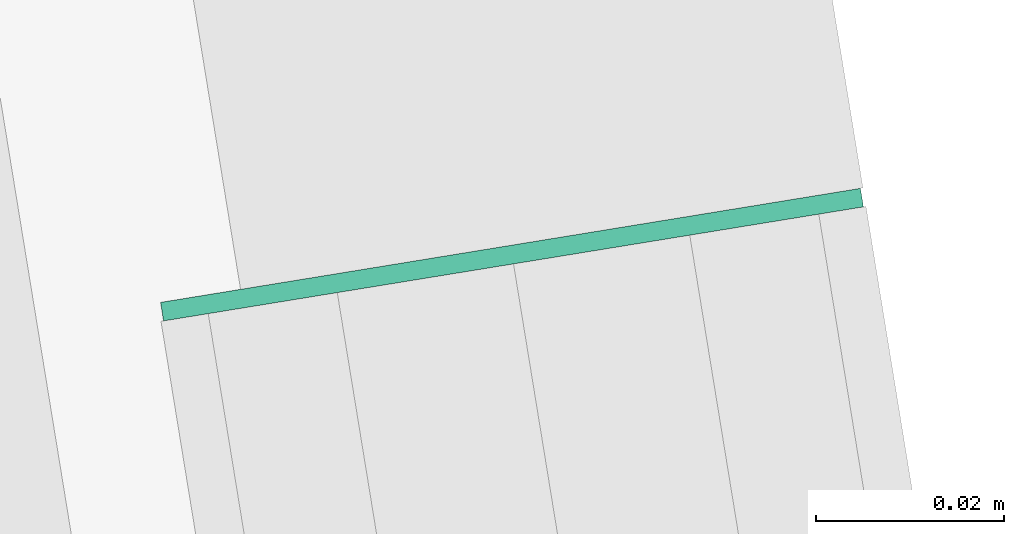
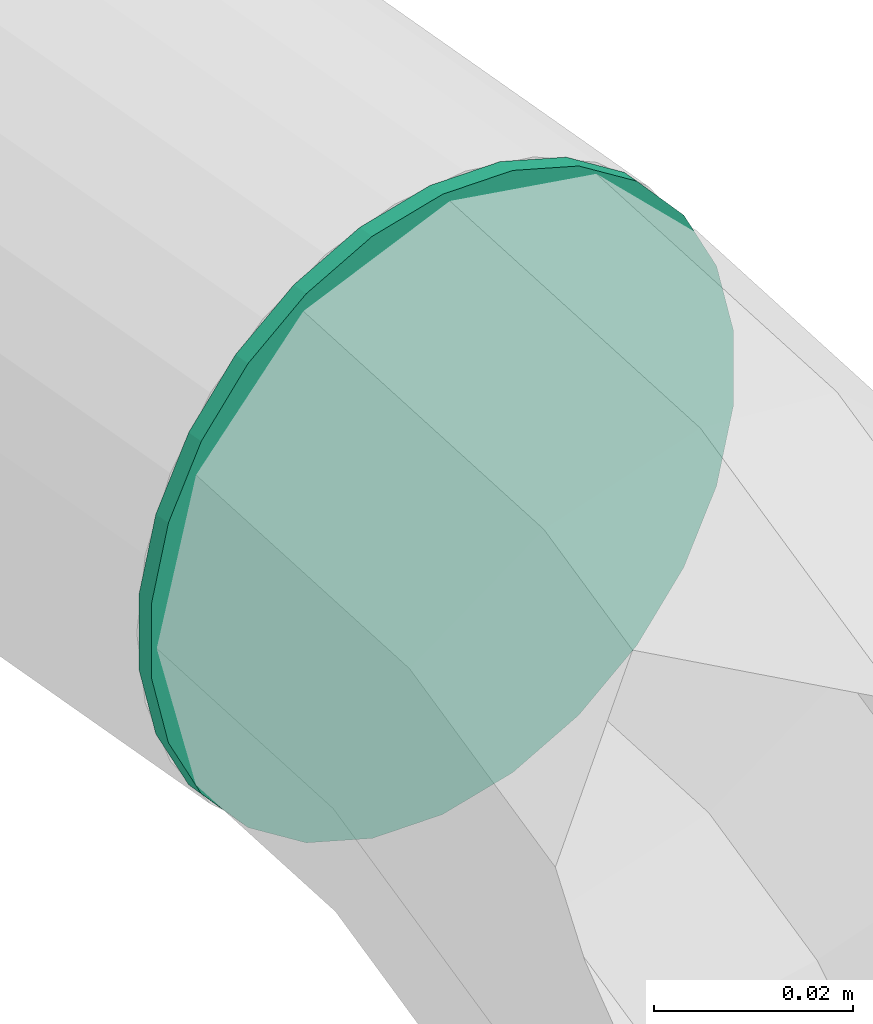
# One storey, part 19 of 46: 1 flow fitting.
"""IFC2X3 building model written with IfcOpenShell, lengths in millimetres."""

import ifcopenshell
import ifcopenshell.guid

model = None  # the IFC model being written
_history = None  # IfcOwnerHistory: only IFC2X3 demands one
_inside = {}  # id of a spatial element -> (the spatial element, [elements in it])
_under = {}  # id of a project, library or spatial element -> (it, [spatial elements below it])
_declared = {}  # id of a project -> (the project, [libraries it declares])
_typed = {}  # id of a type object -> (the type object, [elements of that type])
_made_of = {}  # id of a material, layer set ... -> (it, [elements and type objects made of it])


def new_model(schema):
    """Start an empty IFC model of exactly this schema.

    Asked for "IFC4X3", IfcOpenShell would pick the latest addendum, in which some entities
    have other attributes; the version numbers below select the first issue.
    IFC2X3 requires an IfcOwnerHistory on every rooted entity: one is made here for all.
    """
    global model, _history
    if schema == "IFC4X3":
        model = ifcopenshell.file(schema_version=(4, 3, 0, 0))
    else:
        model = ifcopenshell.file(schema=schema)
    _inside.clear()
    _under.clear()
    _declared.clear()
    _typed.clear()
    _made_of.clear()
    _history = None
    if model.schema == "IFC2X3":
        org = make("IfcOrganization", Name="unknown")
        user = make(
            "IfcPersonAndOrganization",
            ThePerson=make("IfcPerson", FamilyName="unknown"),
            TheOrganization=org,
        )
        app = make(
            "IfcApplication",
            ApplicationDeveloper=org,
            Version="unknown",
            ApplicationFullName="unknown",
            ApplicationIdentifier="unknown",
        )
        _history = make(
            "IfcOwnerHistory",
            OwningUser=user,
            OwningApplication=app,
            ChangeAction="ADDED",
            CreationDate=0,
        )
    return model


def make(cls, **values):
    """One entity of the class cls with the attributes given. An attribute that is None is left unset."""
    return model.create_entity(
        cls, **{name: value for name, value in values.items() if value is not None}
    )


def entity(cls, *values):
    """Any entity or typed value of the class cls, its attributes in the order of the schema. None: left unset."""
    e = model.create_entity(cls)
    for i, value in enumerate(values):
        if value is not None:
            e[i] = value
    return e


def rooted(cls, **values):
    """An entity with a GlobalId (a new one), such as an element, a storey or a relation."""
    return make(cls, GlobalId=ifcopenshell.guid.new(), OwnerHistory=_history, **values)


def si_unit(unit_type, name, prefix=None):
    """IfcSIUnit, for example si_unit("LENGTHUNIT", "METRE", prefix="MILLI")."""
    return make("IfcSIUnit", UnitType=unit_type, Prefix=prefix, Name=name)


def converted_unit(unit_type, name, factor, base, dimensions=None, offset=None):
    """IfcConversionBasedUnit, such as the inch: factor (a typed value) times the base unit."""
    return make(
        "IfcConversionBasedUnit"
        if offset is None
        else "IfcConversionBasedUnitWithOffset",
        ConversionOffset=offset,
        Dimensions=None
        if dimensions is None
        else entity("IfcDimensionalExponents", *dimensions),
        UnitType=unit_type,
        Name=name,
        ConversionFactor=make(
            "IfcMeasureWithUnit", ValueComponent=factor, UnitComponent=base
        ),
    )


def derived_unit(unit_type, elements):
    """IfcDerivedUnit: a product of units, each with its exponent."""
    return make(
        "IfcDerivedUnit",
        Elements=[
            make("IfcDerivedUnitElement", Unit=unit, Exponent=power)
            for unit, power in elements
        ],
        UnitType=unit_type,
    )


def assignment(units):
    """IfcUnitAssignment: the units of a project."""
    return None if units is None else make("IfcUnitAssignment", Units=units)


def point(xyz):
    """IfcCartesianPoint."""
    return None if xyz is None else make("IfcCartesianPoint", Coordinates=xyz)


def direction(xyz):
    """IfcDirection."""
    return None if xyz is None else make("IfcDirection", DirectionRatios=xyz)


def frame(location, z_axis=None, x_axis=None):
    """IfcAxis2Placement3D, a coordinate frame: its origin and axes. An axis left out is left unset."""
    return make(
        "IfcAxis2Placement3D",
        Location=point(location),
        Axis=direction(z_axis),
        RefDirection=direction(x_axis),
    )


def frame_2d(location, x_axis=None):
    """IfcAxis2Placement2D, a coordinate frame in the plane: its origin and x axis."""
    return make(
        "IfcAxis2Placement2D", Location=point(location), RefDirection=direction(x_axis)
    )


def origin():
    """The frame at (0, 0, 0) with its axes left unset."""
    return frame((0.0, 0.0, 0.0))


def origin_with_axes():
    """The frame at (0, 0, 0) with the z axis (0, 0, 1) and the x axis (1, 0, 0) written out."""
    return frame((0.0, 0.0, 0.0), z_axis=(0.0, 0.0, 1.0), x_axis=(1.0, 0.0, 0.0))


def place(relative_to, where):
    """IfcLocalPlacement: puts the frame where relative to a parent placement (None: the world)."""
    return make(
        "IfcLocalPlacement", PlacementRelTo=relative_to, RelativePlacement=where
    )


def context(
    kind, dimensions, precision=None, world=None, true_north=None, identifier=None
):
    """IfcGeometricRepresentationContext, for example the 3D "Model" context."""
    return make(
        "IfcGeometricRepresentationContext",
        ContextIdentifier=identifier,
        ContextType=kind,
        CoordinateSpaceDimension=dimensions,
        Precision=precision,
        WorldCoordinateSystem=world,
        TrueNorth=true_north,
    )


def subcontext(parent, identifier, kind, view, scale=None):
    """IfcGeometricRepresentationSubContext, for example "Body" below "Model"."""
    return make(
        "IfcGeometricRepresentationSubContext",
        ContextIdentifier=identifier,
        ContextType=kind,
        ParentContext=parent,
        TargetScale=scale,
        TargetView=view,
    )


def project(units=None, contexts=None):
    """IfcProject with its units and contexts."""
    return rooted(
        "IfcProject",
        Name="project",
        RepresentationContexts=contexts,
        UnitsInContext=assignment(units),
    )


def spatial(cls, under=None, at=None, **own):
    """A site, building, storey or space (cls), placed at a placement, below another one or the project."""
    s = rooted(cls, ObjectPlacement=at, **own)
    if under is not None:
        _under.setdefault(under.id(), (under, []))[1].append(s)
    return s


def profile(cls, at=None, kind="AREA", **sizes):
    """A parametric profile (cls). Its sizes go by their IFC names, for example OverallWidth=200.0."""
    return make(cls, ProfileType=kind, Position=at, **sizes)


def circle(**sizes):
    """IfcCircleProfileDef."""
    return profile("IfcCircleProfileDef", **sizes)


def extrude(swept, where, along, depth):
    """IfcExtrudedAreaSolid: the profile swept, set in the frame where, extruded along a direction by depth."""
    return make(
        "IfcExtrudedAreaSolid",
        SweptArea=swept,
        Position=where,
        ExtrudedDirection=direction(along),
        Depth=depth,
    )


def shape(context_of_items, identifier, shape_type, items):
    """IfcShapeRepresentation: the items that make up one representation, for example the "Body"."""
    return make(
        "IfcShapeRepresentation",
        ContextOfItems=context_of_items,
        RepresentationIdentifier=identifier,
        RepresentationType=shape_type,
        Items=items,
    )


def source(mapping_origin, context_of_items, identifier, shape_type, items):
    """IfcRepresentationMap: a shape defined once, which mapped items show again and again."""
    return make(
        "IfcRepresentationMap",
        MappingOrigin=mapping_origin,
        MappedRepresentation=shape(context_of_items, identifier, shape_type, items),
    )


def transform(
    local_origin,
    x_axis=None,
    y_axis=None,
    z_axis=None,
    scale=None,
    scale2=None,
    scale3=None,
    uniform=True,
):
    """IfcCartesianTransformationOperator3D, or its non-uniform kind. x_axis, y_axis, z_axis: its Axis1, 2, 3."""
    if uniform:
        return make(
            "IfcCartesianTransformationOperator3D",
            Axis1=direction(x_axis),
            Axis2=direction(y_axis),
            LocalOrigin=point(local_origin),
            Scale=scale,
            Axis3=direction(z_axis),
        )
    return make(
        "IfcCartesianTransformationOperator3DnonUniform",
        Axis1=direction(x_axis),
        Axis2=direction(y_axis),
        LocalOrigin=point(local_origin),
        Scale=scale,
        Axis3=direction(z_axis),
        Scale2=scale2,
        Scale3=scale3,
    )


def mapped(mapping_source, mapping_target):
    """IfcMappedItem: shows the shape of a source again, moved by a transform."""
    return make(
        "IfcMappedItem", MappingSource=mapping_source, MappingTarget=mapping_target
    )


def material(Name=None, Category=None):
    """IfcMaterial."""
    return make("IfcMaterial", Name=Name, Category=Category)


def made_of(thing, what):
    """Note that an element or type object is made of a material, layer set ...; save() writes the relation."""
    if what is not None:
        _made_of.setdefault(what.id(), (what, []))[1].append(thing)
    return thing


def type_object(cls, material=None, **own):
    """A type object (cls), such as IfcWallType, which elements share."""
    return made_of(rooted(cls, **own), material)


def element(
    cls,
    number,
    at=None,
    inside=None,
    cuts=None,
    type_object=None,
    material=None,
    context=None,
    identifier="Body",
    shape_type=None,
    held_by="IfcProductDefinitionShape",
    body=None,
    shapes=None,
    **own,
):
    """One element of the class cls, such as IfcWall. Its Tag is "e" and its number.

    at: its placement. inside: the storey or other place that contains it. cuts: it is an
    opening in that element (IfcRelVoidsElement). A single representation is given by context,
    identifier, shape_type and body (its items); several are given by shapes. held_by: the class
    of the entity that holds the representations. save() writes the other relations.
    """
    e = rooted(cls, Tag="e%d" % number, ObjectPlacement=at, **own)
    if body is not None:
        shapes = [shape(context, identifier, shape_type, body)]
    if shapes is not None:
        e.Representation = make(held_by, Representations=shapes)
    if inside is not None:
        _inside.setdefault(inside.id(), (inside, []))[1].append(e)
    if cuts is not None:
        rooted(
            "IfcRelVoidsElement", RelatingBuildingElement=cuts, RelatedOpeningElement=e
        )
    if type_object is not None:
        _typed.setdefault(type_object.id(), (type_object, []))[1].append(e)
    return made_of(e, material)


def aggregate(whole, parts):
    """IfcRelAggregates: a whole, such as a stair, and the parts it consists of."""
    return rooted("IfcRelAggregates", RelatingObject=whole, RelatedObjects=parts)


def save(model, path):
    """Write the relations noted so far, then the file.

    IfcRelAggregates (storeys below a building ...), IfcRelContainedInSpatialStructure (elements
    in a storey), IfcRelDefinesByType, IfcRelAssociatesMaterial and IfcRelDeclares: one each for
    every whole, place, type object, material and project.
    """
    for whole, parts in _under.values():
        aggregate(whole, parts)
    for where, things in _inside.values():
        rooted(
            "IfcRelContainedInSpatialStructure",
            RelatedElements=things,
            RelatingStructure=where,
        )
    for kind, things in _typed.values():
        rooted("IfcRelDefinesByType", RelatedObjects=things, RelatingType=kind)
    for what, things in _made_of.values():
        rooted("IfcRelAssociatesMaterial", RelatedObjects=things, RelatingMaterial=what)
    for by, libraries in _declared.values():
        rooted("IfcRelDeclares", RelatingContext=by, RelatedDefinitions=libraries)
    model.write(path)


model = new_model("IFC2X3")

# Units and contexts
model_context = context("Model", 3, precision=0.01, world=origin(), true_north=direction((6.12323399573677e-17, 1.0)))
plan_context = context("Plan", 3, precision=1e-05, world=origin_with_axes())
body_context = subcontext(model_context, "Body", "Model", "MODEL_VIEW")
ifc_project = project(units=[converted_unit("PLANEANGLEUNIT", "DEGREE", entity("IfcPositiveLengthMeasure", 0.0174532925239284), si_unit("PLANEANGLEUNIT", "RADIAN"), dimensions=[0, 0, 0, 0, 0, 0, 0]), si_unit("AREAUNIT", "SQUARE_METRE"), si_unit("LENGTHUNIT", "METRE", prefix="MILLI"), si_unit("MASSUNIT", "GRAM", prefix="KILO"), si_unit("POWERUNIT", "WATT"), si_unit("PRESSUREUNIT", "PASCAL", prefix="KILO"), si_unit("FORCEUNIT", "NEWTON", prefix="KILO"), si_unit("ELECTRICVOLTAGEUNIT", "VOLT"), si_unit("ELECTRICCURRENTUNIT", "AMPERE"), si_unit("THERMODYNAMICTEMPERATUREUNIT", "DEGREE_CELSIUS"), si_unit("TIMEUNIT", "SECOND"), si_unit("VOLUMEUNIT", "CUBIC_METRE"), derived_unit("LINEARVELOCITYUNIT", [(si_unit("LENGTHUNIT", "METRE"), 1), (si_unit("TIMEUNIT", "SECOND"), -1)]), derived_unit("VOLUMETRICFLOWRATEUNIT", [(si_unit("VOLUMEUNIT", "CUBIC_METRE"), 1), (si_unit("TIMEUNIT", "SECOND"), -1)]), derived_unit("THERMALTRANSMITTANCEUNIT", [(si_unit("POWERUNIT", "WATT"), 1), (si_unit("THERMODYNAMICTEMPERATUREUNIT", "KELVIN"), -1), (si_unit("AREAUNIT", "SQUARE_METRE"), -1)]), derived_unit("SOUNDPRESSUREUNIT", [(si_unit("PRESSUREUNIT", "PASCAL"), 1)])], contexts=[model_context, plan_context])

# Site, building, storey
site_placement = place(None, frame((-3.09682673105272e-06, 1.93776733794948e-05, 0.0), z_axis=(0.0, 0.0, 1.0), x_axis=(-0.160806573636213, 0.986985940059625, 0.0)))
site = spatial("IfcSite", under=ifc_project, at=site_placement, Name="Default", CompositionType="ELEMENT")
building_placement = place(site_placement, frame((0.0, 0.0, 0.0), z_axis=(0.0, 0.0, 1.0), x_axis=(1.0, -2.77555756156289e-17, 0.0)))
building = spatial("IfcBuilding", under=site, at=building_placement, Name="Bygning (endres i Project Information)", CompositionType="ELEMENT")
storey_placement = place(building_placement, frame((0.0, 0.0, 51360.0000000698), z_axis=(0.0, 0.0, 1.0), x_axis=(1.0, -2.77555756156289e-17, 0.0)))
storey = spatial("IfcBuildingStorey", under=building, at=storey_placement, Name="H01-Nivå D+0,36", CompositionType="ELEMENT", Elevation=51360.0000000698)

# Flow fitting
ifc_material = material(Name="<Unnamed>")
pipe_fitting_type = type_object("IfcPipeFittingType", Name="Sveis:Sveis", PredefinedType="NOTDEFINED", material=ifc_material)
shared_shape = source(origin(), body_context, "Body", "SweptSolid", [
    extrude(circle(Radius=38.05, at=frame_2d((1.62943588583e-15, -6.14714710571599e-14), x_axis=(1.0, 0.0))), origin(), (0.0, 0.0, 1.0), 2.0),
])
flow_fitting_placement = place(storey_placement, frame((997382.867643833, -347096.584018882, 3299.95000040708), z_axis=(1.0, -2.77555756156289e-17, 0.0), x_axis=(0.0, 0.0, 1.0)))
element("IfcFlowFitting", 1, at=flow_fitting_placement, inside=storey, type_object=pipe_fitting_type, material=ifc_material, Name="Sveis:Sveis", ObjectType="Sveis:Sveis", context=body_context, shape_type="MappedRepresentation", body=[
    mapped(shared_shape, transform((0.0, 0.0, 0.0), scale=1.0)),
])

save(model, "model.ifc")
